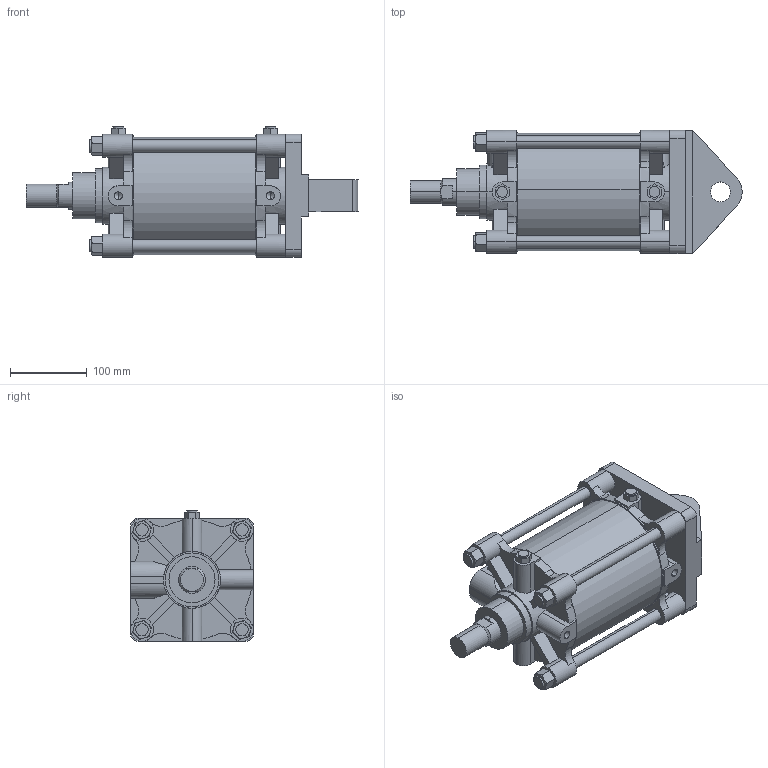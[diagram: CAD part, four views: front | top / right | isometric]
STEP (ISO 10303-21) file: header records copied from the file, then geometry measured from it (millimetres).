
FILE_DESCRIPTION (( 'STEP AP203' ), '1' );
FILE_NAME ('A##2-140#-100-C.STEP', '2016-03-31T06:53:24', ( '' ), ( '' ), 'SwSTEP 2.0', 'SolidWorks 2014', '' );
FILE_SCHEMA (( 'CONFIG_CONTROL_DESIGN' ));
Length unit declared in the file: millimetre
Products named in the file (7): A140-A; A140-100; A140-B; A140-C; A##2-140#-100-C
Assembly tree (12 placements, depth 2):
  A##2-140#-100-C
    A140-B
    A140-100
    A140-A
    (unnamed)  x4
    (unnamed)  x4
    A140-C
Bounding box: 431.9 x 160 x 170 mm (x, y, z)
Volume: 5217417.1 mm3; surface area: 469402.5 mm2
Topology: 12 solids, 14 shells, 355 faces, 912 edges, 586 vertices
Faces by surface type: plane 182, cylinder 133, torus 24, cone 16
Entity records: 10630 total; most frequent: CARTESIAN_POINT 2125, DIRECTION 1688, ORIENTED_EDGE 1548, EDGE_CURVE 774, AXIS2_PLACEMENT_3D 638, VERTEX_POINT 508, LINE 412, VECTOR 412
